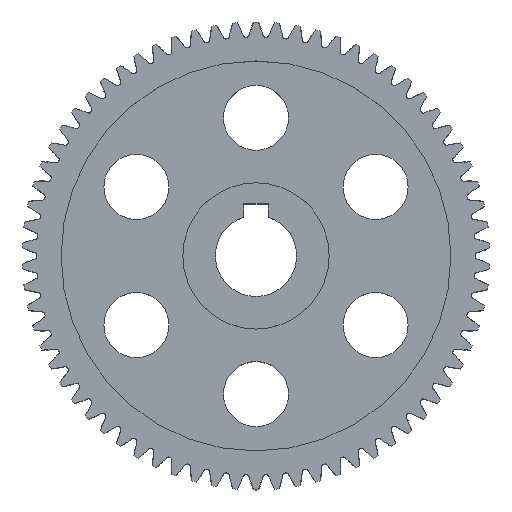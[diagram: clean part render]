
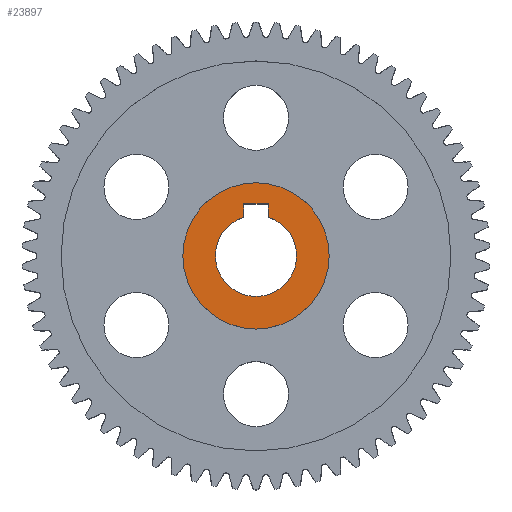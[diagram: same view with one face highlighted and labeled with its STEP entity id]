
A CAD part, top view. The second image highlights one B-rep face of the part: STEP entity #23897.
In plain terms, the highlighted planar face has unit normal (0, 0, 1).
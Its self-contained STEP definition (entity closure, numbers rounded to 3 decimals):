
#23734 = PLANE('',#23735);
#23735 = AXIS2_PLACEMENT_3D('',#23736,#23737,#23738);
#23736 = CARTESIAN_POINT('',(1.5,0.,-1.));
#23737 = DIRECTION('',(1.,0.,-0.));
#23738 = DIRECTION('',(0.,0.,1.));
#23762 = CYLINDRICAL_SURFACE('',#23763,5.);
#23763 = AXIS2_PLACEMENT_3D('',#23764,#23765,#23766);
#23764 = CARTESIAN_POINT('',(0.,0.,-1.));
#23765 = DIRECTION('',(0.,0.,1.));
#23766 = DIRECTION('',(1.,0.,-0.));
#23789 = PLANE('',#23790);
#23790 = AXIS2_PLACEMENT_3D('',#23791,#23792,#23793);
#23791 = CARTESIAN_POINT('',(-1.5,0.,-1.));
#23792 = DIRECTION('',(1.,0.,-0.));
#23793 = DIRECTION('',(0.,0.,1.));
#23813 = PLANE('',#23814);
#23814 = AXIS2_PLACEMENT_3D('',#23815,#23816,#23817);
#23815 = CARTESIAN_POINT('',(-1.5,6.4,-1.));
#23816 = DIRECTION('',(-0.,1.,0.));
#23817 = DIRECTION('',(0.,0.,1.));
#23828 = VERTEX_POINT('',#23829);
#23829 = CARTESIAN_POINT('',(1.5,6.4,9.));
#23852 = VERTEX_POINT('',#23853);
#23853 = CARTESIAN_POINT('',(-1.5,6.4,9.));
#23874 = EDGE_CURVE('',#23828,#23852,#23875,.T.);
#23875 = SURFACE_CURVE('',#23876,(#23880,#23886),.PCURVE_S1.);
#23876 = LINE('',#23877,#23878);
#23877 = CARTESIAN_POINT('',(-0.75,6.4,9.));
#23878 = VECTOR('',#23879,1.);
#23879 = DIRECTION('',(-1.,-0.,0.));
#23880 = PCURVE('',#23813,#23881);
#23881 = DEFINITIONAL_REPRESENTATION('',(#23882),#23885);
#23882 = B_SPLINE_CURVE_WITH_KNOTS('',1,(#23883,#23884),.UNSPECIFIED.,
  .F.,.F.,(2,2),(-2.25,0.75),.PIECEWISE_BEZIER_KNOTS.);
#23883 = CARTESIAN_POINT('',(10.,3.));
#23884 = CARTESIAN_POINT('',(10.,0.));
#23885 = ( GEOMETRIC_REPRESENTATION_CONTEXT(2) 
PARAMETRIC_REPRESENTATION_CONTEXT() REPRESENTATION_CONTEXT('2D SPACE',''
  ) );
#23886 = PCURVE('',#23887,#23892);
#23887 = PLANE('',#23888);
#23888 = AXIS2_PLACEMENT_3D('',#23889,#23890,#23891);
#23889 = CARTESIAN_POINT('',(0.,0.,9.));
#23890 = DIRECTION('',(0.,0.,1.));
#23891 = DIRECTION('',(1.,0.,-0.));
#23892 = DEFINITIONAL_REPRESENTATION('',(#23893),#23896);
#23893 = B_SPLINE_CURVE_WITH_KNOTS('',1,(#23894,#23895),.UNSPECIFIED.,
  .F.,.F.,(2,2),(-2.25,0.75),.PIECEWISE_BEZIER_KNOTS.);
#23894 = CARTESIAN_POINT('',(1.5,6.4));
#23895 = CARTESIAN_POINT('',(-1.5,6.4));
#23896 = ( GEOMETRIC_REPRESENTATION_CONTEXT(2) 
PARAMETRIC_REPRESENTATION_CONTEXT() REPRESENTATION_CONTEXT('2D SPACE',''
  ) );
#23897 = ADVANCED_FACE('',(#23898,#23929),#23887,.T.);
#23898 = FACE_BOUND('',#23899,.T.);
#23899 = EDGE_LOOP('',(#23900));
#23900 = ORIENTED_EDGE('',*,*,#23901,.T.);
#23901 = EDGE_CURVE('',#23902,#23902,#23904,.T.);
#23902 = VERTEX_POINT('',#23903);
#23903 = CARTESIAN_POINT('',(9.,0.,9.));
#23904 = SURFACE_CURVE('',#23905,(#23910,#23917),.PCURVE_S1.);
#23905 = CIRCLE('',#23906,9.);
#23906 = AXIS2_PLACEMENT_3D('',#23907,#23908,#23909);
#23907 = CARTESIAN_POINT('',(0.,0.,9.));
#23908 = DIRECTION('',(0.,0.,1.));
#23909 = DIRECTION('',(1.,0.,-0.));
#23910 = PCURVE('',#23887,#23911);
#23911 = DEFINITIONAL_REPRESENTATION('',(#23912),#23916);
#23912 = CIRCLE('',#23913,9.);
#23913 = AXIS2_PLACEMENT_2D('',#23914,#23915);
#23914 = CARTESIAN_POINT('',(0.,0.));
#23915 = DIRECTION('',(1.,0.));
#23916 = ( GEOMETRIC_REPRESENTATION_CONTEXT(2) 
PARAMETRIC_REPRESENTATION_CONTEXT() REPRESENTATION_CONTEXT('2D SPACE',''
  ) );
#23917 = PCURVE('',#23918,#23923);
#23918 = CYLINDRICAL_SURFACE('',#23919,9.);
#23919 = AXIS2_PLACEMENT_3D('',#23920,#23921,#23922);
#23920 = CARTESIAN_POINT('',(0.,0.,5.99));
#23921 = DIRECTION('',(0.,0.,1.));
#23922 = DIRECTION('',(1.,0.,-0.));
#23923 = DEFINITIONAL_REPRESENTATION('',(#23924),#23928);
#23924 = LINE('',#23925,#23926);
#23925 = CARTESIAN_POINT('',(0.,3.01));
#23926 = VECTOR('',#23927,1.);
#23927 = DIRECTION('',(1.,0.));
#23928 = ( GEOMETRIC_REPRESENTATION_CONTEXT(2) 
PARAMETRIC_REPRESENTATION_CONTEXT() REPRESENTATION_CONTEXT('2D SPACE',''
  ) );
#23929 = FACE_BOUND('',#23930,.T.);
#23930 = EDGE_LOOP('',(#23931,#23952,#23976,#23995));
#23931 = ORIENTED_EDGE('',*,*,#23932,.F.);
#23932 = EDGE_CURVE('',#23933,#23828,#23935,.T.);
#23933 = VERTEX_POINT('',#23934);
#23934 = CARTESIAN_POINT('',(1.5,4.77,9.));
#23935 = SURFACE_CURVE('',#23936,(#23940,#23946),.PCURVE_S1.);
#23936 = LINE('',#23937,#23938);
#23937 = CARTESIAN_POINT('',(1.5,0.,9.));
#23938 = VECTOR('',#23939,1.);
#23939 = DIRECTION('',(-0.,1.,0.));
#23940 = PCURVE('',#23887,#23941);
#23941 = DEFINITIONAL_REPRESENTATION('',(#23942),#23945);
#23942 = B_SPLINE_CURVE_WITH_KNOTS('',1,(#23943,#23944),.UNSPECIFIED.,
  .F.,.F.,(2,2),(0.,6.4),.PIECEWISE_BEZIER_KNOTS.);
#23943 = CARTESIAN_POINT('',(1.5,0.));
#23944 = CARTESIAN_POINT('',(1.5,6.4));
#23945 = ( GEOMETRIC_REPRESENTATION_CONTEXT(2) 
PARAMETRIC_REPRESENTATION_CONTEXT() REPRESENTATION_CONTEXT('2D SPACE',''
  ) );
#23946 = PCURVE('',#23734,#23947);
#23947 = DEFINITIONAL_REPRESENTATION('',(#23948),#23951);
#23948 = B_SPLINE_CURVE_WITH_KNOTS('',1,(#23949,#23950),.UNSPECIFIED.,
  .F.,.F.,(2,2),(0.,6.4),.PIECEWISE_BEZIER_KNOTS.);
#23949 = CARTESIAN_POINT('',(10.,0.));
#23950 = CARTESIAN_POINT('',(10.,-6.4));
#23951 = ( GEOMETRIC_REPRESENTATION_CONTEXT(2) 
PARAMETRIC_REPRESENTATION_CONTEXT() REPRESENTATION_CONTEXT('2D SPACE',''
  ) );
#23952 = ORIENTED_EDGE('',*,*,#23953,.F.);
#23953 = EDGE_CURVE('',#23954,#23933,#23956,.T.);
#23954 = VERTEX_POINT('',#23955);
#23955 = CARTESIAN_POINT('',(-1.5,4.77,9.));
#23956 = SURFACE_CURVE('',#23957,(#23962,#23969),.PCURVE_S1.);
#23957 = CIRCLE('',#23958,5.);
#23958 = AXIS2_PLACEMENT_3D('',#23959,#23960,#23961);
#23959 = CARTESIAN_POINT('',(0.,0.,9.));
#23960 = DIRECTION('',(0.,0.,1.));
#23961 = DIRECTION('',(-0.3,0.954,0.));
#23962 = PCURVE('',#23887,#23963);
#23963 = DEFINITIONAL_REPRESENTATION('',(#23964),#23968);
#23964 = CIRCLE('',#23965,5.);
#23965 = AXIS2_PLACEMENT_2D('',#23966,#23967);
#23966 = CARTESIAN_POINT('',(0.,0.));
#23967 = DIRECTION('',(-0.3,0.954));
#23968 = ( GEOMETRIC_REPRESENTATION_CONTEXT(2) 
PARAMETRIC_REPRESENTATION_CONTEXT() REPRESENTATION_CONTEXT('2D SPACE',''
  ) );
#23969 = PCURVE('',#23762,#23970);
#23970 = DEFINITIONAL_REPRESENTATION('',(#23971),#23975);
#23971 = LINE('',#23972,#23973);
#23972 = CARTESIAN_POINT('',(1.875,10.));
#23973 = VECTOR('',#23974,1.);
#23974 = DIRECTION('',(1.,0.));
#23975 = ( GEOMETRIC_REPRESENTATION_CONTEXT(2) 
PARAMETRIC_REPRESENTATION_CONTEXT() REPRESENTATION_CONTEXT('2D SPACE',''
  ) );
#23976 = ORIENTED_EDGE('',*,*,#23977,.T.);
#23977 = EDGE_CURVE('',#23954,#23852,#23978,.T.);
#23978 = SURFACE_CURVE('',#23979,(#23983,#23989),.PCURVE_S1.);
#23979 = LINE('',#23980,#23981);
#23980 = CARTESIAN_POINT('',(-1.5,0.,9.));
#23981 = VECTOR('',#23982,1.);
#23982 = DIRECTION('',(-0.,1.,0.));
#23983 = PCURVE('',#23887,#23984);
#23984 = DEFINITIONAL_REPRESENTATION('',(#23985),#23988);
#23985 = B_SPLINE_CURVE_WITH_KNOTS('',1,(#23986,#23987),.UNSPECIFIED.,
  .F.,.F.,(2,2),(0.,6.4),.PIECEWISE_BEZIER_KNOTS.);
#23986 = CARTESIAN_POINT('',(-1.5,0.));
#23987 = CARTESIAN_POINT('',(-1.5,6.4));
#23988 = ( GEOMETRIC_REPRESENTATION_CONTEXT(2) 
PARAMETRIC_REPRESENTATION_CONTEXT() REPRESENTATION_CONTEXT('2D SPACE',''
  ) );
#23989 = PCURVE('',#23789,#23990);
#23990 = DEFINITIONAL_REPRESENTATION('',(#23991),#23994);
#23991 = B_SPLINE_CURVE_WITH_KNOTS('',1,(#23992,#23993),.UNSPECIFIED.,
  .F.,.F.,(2,2),(0.,6.4),.PIECEWISE_BEZIER_KNOTS.);
#23992 = CARTESIAN_POINT('',(10.,0.));
#23993 = CARTESIAN_POINT('',(10.,-6.4));
#23994 = ( GEOMETRIC_REPRESENTATION_CONTEXT(2) 
PARAMETRIC_REPRESENTATION_CONTEXT() REPRESENTATION_CONTEXT('2D SPACE',''
  ) );
#23995 = ORIENTED_EDGE('',*,*,#23874,.F.);
